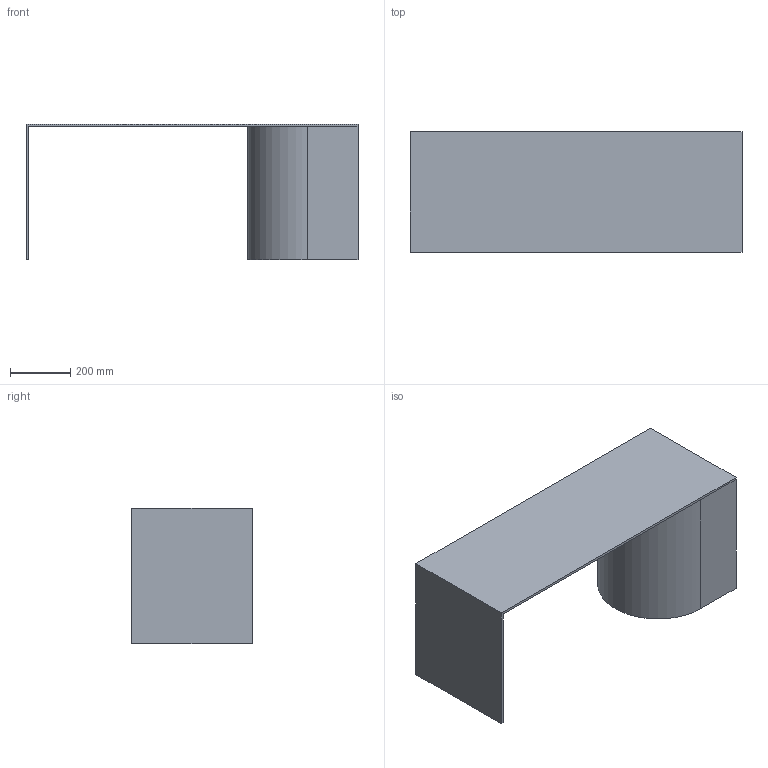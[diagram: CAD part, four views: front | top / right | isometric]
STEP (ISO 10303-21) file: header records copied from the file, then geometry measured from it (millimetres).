
FILE_DESCRIPTION(/* description */ (''),/* implementation_level */ '2;1');
FILE_NAME(/* name */ 'POF3J4~U',/* time_stamp */ '2019-03-20T10:05:42+01:00',/* author */ (''),/* organization */ (''),/* preprocessor_version */ 'ST-DEVELOPER v16.5',/* originating_system */ '',/* authorisation */ '');
FILE_SCHEMA (('AUTOMOTIVE_DESIGN'));
Length unit declared in the file: millimetre
Products named in the file (1): Document
Bounding box: 1100 x 400 x 450 mm (x, y, z)
Volume: 8105500.8 mm3; surface area: 2110015.8 mm2
Topology: 1 solids, 1 shells, 18 faces, 42 edges, 26 vertices
Faces by surface type: plane 10, bspline 8
Entity records: 875 total; most frequent: CARTESIAN_POINT 595, ORIENTED_EDGE 84, EDGE_CURVE 42, VERTEX_POINT 26, B_SPLINE_CURVE_WITH_KNOTS 22, ADVANCED_FACE 18, FACE_OUTER_BOUND 18, EDGE_LOOP 18
